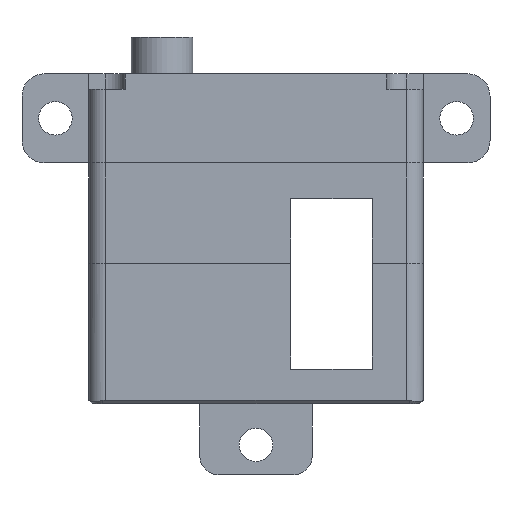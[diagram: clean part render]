
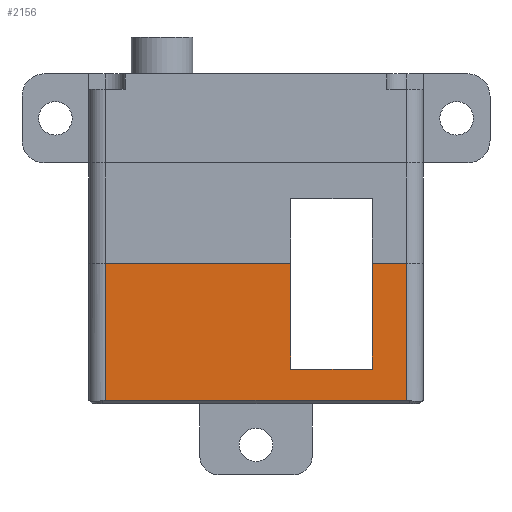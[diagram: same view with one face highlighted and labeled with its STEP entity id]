
A CAD part, front view. The second image highlights one B-rep face of the part: STEP entity #2156.
In plain terms, the highlighted planar face has unit normal (0, -1, 0).
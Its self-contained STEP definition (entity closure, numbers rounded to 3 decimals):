
#172 = CARTESIAN_POINT ( 'NONE',  ( 13.5, -5., -21.3 ) ) ;
#209 = VERTEX_POINT ( 'NONE', #6292 ) ;
#274 = EDGE_CURVE ( 'NONE', #508, #2882, #3329, .T. ) ;
#403 = DIRECTION ( 'NONE',  ( 0., 0., -1. ) ) ;
#426 = ORIENTED_EDGE ( 'NONE', *, *, #5458, .T. ) ;
#464 = CARTESIAN_POINT ( 'NONE',  ( 10.44, -5., -9. ) ) ;
#508 = VERTEX_POINT ( 'NONE', #5538 ) ;
#557 = DIRECTION ( 'NONE',  ( 0., 0., -1. ) ) ;
#709 = DIRECTION ( 'NONE',  ( 0., 0., -1. ) ) ;
#981 = EDGE_CURVE ( 'NONE', #2546, #6983, #6003, .T. ) ;
#1075 = DIRECTION ( 'NONE',  ( -1., 0., 0. ) ) ;
#1467 = VERTEX_POINT ( 'NONE', #5436 ) ;
#1476 = CARTESIAN_POINT ( 'NONE',  ( 15., -5., -9. ) ) ;
#2050 = CARTESIAN_POINT ( 'NONE',  ( -13.5, -5., -21.3 ) ) ;
#2137 = ORIENTED_EDGE ( 'NONE', *, *, #274, .T. ) ;
#2156 = ADVANCED_FACE ( 'NONE', ( #3201 ), #6075, .T. ) ;
#2184 = ORIENTED_EDGE ( 'NONE', *, *, #3496, .T. ) ;
#2448 = EDGE_CURVE ( 'NONE', #4671, #508, #5534, .T. ) ;
#2546 = VERTEX_POINT ( 'NONE', #7313 ) ;
#2787 = DIRECTION ( 'NONE',  ( -1., 0., 0. ) ) ;
#2882 = VERTEX_POINT ( 'NONE', #3028 ) ;
#3028 = CARTESIAN_POINT ( 'NONE',  ( 3.11, -5., -18.5 ) ) ;
#3096 = CARTESIAN_POINT ( 'NONE',  ( 13.5, -5., -9. ) ) ;
#3201 = FACE_OUTER_BOUND ( 'NONE', #6681, .T. ) ;
#3329 = LINE ( 'NONE', #3995, #5261 ) ;
#3496 = EDGE_CURVE ( 'NONE', #6983, #7679, #6891, .T. ) ;
#3825 = CARTESIAN_POINT ( 'NONE',  ( 15., -5., -21.3 ) ) ;
#3995 = CARTESIAN_POINT ( 'NONE',  ( 15., -5., -18.5 ) ) ;
#4035 = ORIENTED_EDGE ( 'NONE', *, *, #7364, .T. ) ;
#4080 = CARTESIAN_POINT ( 'NONE',  ( -13.5, -5., -9. ) ) ;
#4137 = CARTESIAN_POINT ( 'NONE',  ( 3.11, -5., -9. ) ) ;
#4369 = CARTESIAN_POINT ( 'NONE',  ( 10.44, -5., -9. ) ) ;
#4390 = VECTOR ( 'NONE', #1075, 1000. ) ;
#4478 = CARTESIAN_POINT ( 'NONE',  ( 0., -5., -9. ) ) ;
#4568 = ORIENTED_EDGE ( 'NONE', *, *, #6546, .T. ) ;
#4671 = VERTEX_POINT ( 'NONE', #464 ) ;
#4772 = DIRECTION ( 'NONE',  ( -1., 0., 0. ) ) ;
#4827 = VECTOR ( 'NONE', #709, 1000. ) ;
#5261 = VECTOR ( 'NONE', #4772, 1000. ) ;
#5436 = CARTESIAN_POINT ( 'NONE',  ( 3.11, -5., -9. ) ) ;
#5458 = EDGE_CURVE ( 'NONE', #1467, #2546, #6290, .T. ) ;
#5520 = VECTOR ( 'NONE', #7184, 1000. ) ;
#5534 = LINE ( 'NONE', #4369, #8189 ) ;
#5538 = CARTESIAN_POINT ( 'NONE',  ( 10.44, -5., -18.5 ) ) ;
#5673 = EDGE_CURVE ( 'NONE', #209, #4671, #6940, .T. ) ;
#5948 = AXIS2_PLACEMENT_3D ( 'NONE', #5994, #6744, #557 ) ;
#5955 = LINE ( 'NONE', #4137, #7567 ) ;
#5994 = CARTESIAN_POINT ( 'NONE',  ( 15., -5., -9. ) ) ;
#6003 = LINE ( 'NONE', #4080, #4827 ) ;
#6075 = PLANE ( 'NONE',  #5948 ) ;
#6141 = ORIENTED_EDGE ( 'NONE', *, *, #981, .T. ) ;
#6290 = LINE ( 'NONE', #1476, #6828 ) ;
#6292 = CARTESIAN_POINT ( 'NONE',  ( 13.5, -5., -9. ) ) ;
#6546 = EDGE_CURVE ( 'NONE', #2882, #1467, #5955, .T. ) ;
#6681 = EDGE_LOOP ( 'NONE', ( #4035, #8257, #6992, #2137, #4568, #426, #6141, #2184 ) ) ;
#6744 = DIRECTION ( 'NONE',  ( 0., -1., 0. ) ) ;
#6828 = VECTOR ( 'NONE', #2787, 1000. ) ;
#6891 = LINE ( 'NONE', #3825, #5520 ) ;
#6940 = LINE ( 'NONE', #4478, #4390 ) ;
#6983 = VERTEX_POINT ( 'NONE', #2050 ) ;
#6992 = ORIENTED_EDGE ( 'NONE', *, *, #2448, .T. ) ;
#7184 = DIRECTION ( 'NONE',  ( 1., 0., 0. ) ) ;
#7313 = CARTESIAN_POINT ( 'NONE',  ( -13.5, -5., -9. ) ) ;
#7364 = EDGE_CURVE ( 'NONE', #7679, #209, #7728, .T. ) ;
#7567 = VECTOR ( 'NONE', #7626, 1000. ) ;
#7626 = DIRECTION ( 'NONE',  ( 0., 0., 1. ) ) ;
#7679 = VERTEX_POINT ( 'NONE', #172 ) ;
#7728 = LINE ( 'NONE', #3096, #8143 ) ;
#7904 = DIRECTION ( 'NONE',  ( 0., 0., 1. ) ) ;
#8143 = VECTOR ( 'NONE', #7904, 1000. ) ;
#8189 = VECTOR ( 'NONE', #403, 1000. ) ;
#8257 = ORIENTED_EDGE ( 'NONE', *, *, #5673, .T. ) ;
